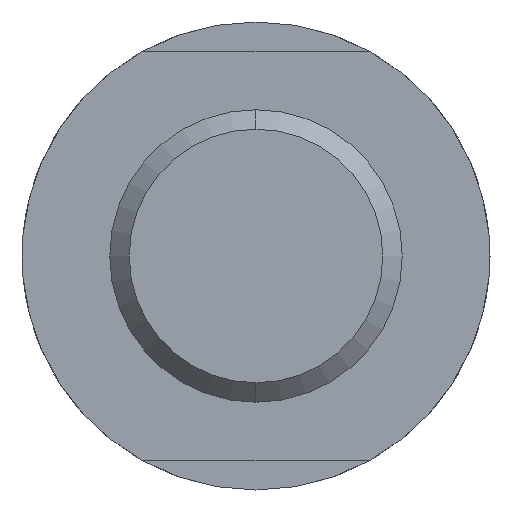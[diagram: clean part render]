
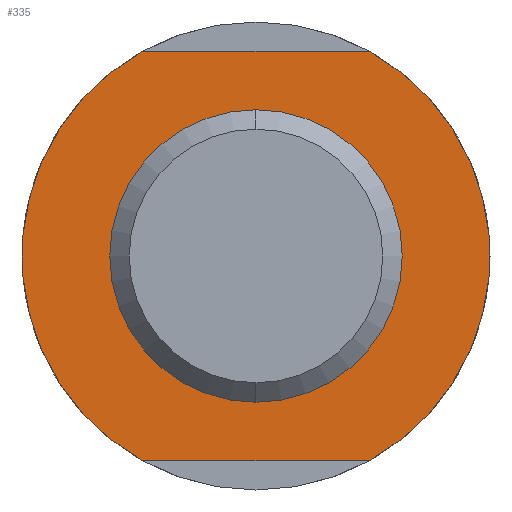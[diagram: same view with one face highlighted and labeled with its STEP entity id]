
A CAD part, left-side view. The second image highlights one B-rep face of the part: STEP entity #335.
In plain terms, the highlighted planar face has unit normal (-1, 0, 0).
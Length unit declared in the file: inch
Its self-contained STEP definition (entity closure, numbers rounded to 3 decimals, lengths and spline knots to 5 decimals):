
#2 = CIRCLE ( 'NONE', #1715, 1. ) ;
#5 = LINE ( 'NONE', #1542, #126 ) ;
#52 = VECTOR ( 'NONE', #1541, 39.37008 ) ;
#56 = LINE ( 'NONE', #1566, #52 ) ;
#123 = CIRCLE ( 'NONE', #1742, 0.625 ) ;
#126 = VECTOR ( 'NONE', #1635, 39.37008 ) ;
#129 = CIRCLE ( 'NONE', #1761, 1. ) ;
#142 = CIRCLE ( 'NONE', #243, 0.625 ) ;
#238 = AXIS2_PLACEMENT_3D ( 'NONE', #889, #788, #941 ) ;
#243 = AXIS2_PLACEMENT_3D ( 'NONE', #1596, #1601, #1694 ) ;
#335 = ADVANCED_FACE ( 'NONE', ( #1201, #1203 ), #796, .T. ) ;
#361 = ORIENTED_EDGE ( 'NONE', *, *, #1812, .T. ) ;
#362 = ORIENTED_EDGE ( 'NONE', *, *, #1773, .F. ) ;
#366 = ORIENTED_EDGE ( 'NONE', *, *, #1912, .T. ) ;
#367 = ORIENTED_EDGE ( 'NONE', *, *, #1871, .F. ) ;
#373 = ORIENTED_EDGE ( 'NONE', *, *, #1771, .F. ) ;
#397 = ORIENTED_EDGE ( 'NONE', *, *, #1772, .T. ) ;
#443 = EDGE_LOOP ( 'NONE', ( #367, #373 ) ) ;
#547 = VERTEX_POINT ( 'NONE', #1634 ) ;
#548 = VERTEX_POINT ( 'NONE', #1636 ) ;
#549 = VERTEX_POINT ( 'NONE', #1590 ) ;
#552 = VERTEX_POINT ( 'NONE', #1676 ) ;
#560 = VERTEX_POINT ( 'NONE', #1622 ) ;
#609 = EDGE_LOOP ( 'NONE', ( #366, #397, #361, #362 ) ) ;
#692 = VERTEX_POINT ( 'NONE', #1574 ) ;
#788 = DIRECTION ( 'NONE',  ( -1., 0., 0. ) ) ;
#796 = PLANE ( 'NONE',  #238 ) ;
#889 = CARTESIAN_POINT ( 'NONE',  ( -1., 0.625, 0. ) ) ;
#941 = DIRECTION ( 'NONE',  ( 0., 0., 1. ) ) ;
#1201 = FACE_BOUND ( 'NONE', #443, .T. ) ;
#1203 = FACE_OUTER_BOUND ( 'NONE', #609, .T. ) ;
#1253 = DIRECTION ( 'NONE',  ( 0., 0., 1. ) ) ;
#1265 = DIRECTION ( 'NONE',  ( -1., 0., 0. ) ) ;
#1308 = DIRECTION ( 'NONE',  ( 0., 0., 1. ) ) ;
#1310 = CARTESIAN_POINT ( 'NONE',  ( -1., 0., 0. ) ) ;
#1319 = DIRECTION ( 'NONE',  ( -1., 0., 0. ) ) ;
#1337 = CARTESIAN_POINT ( 'NONE',  ( -1., 0., 0. ) ) ;
#1424 = DIRECTION ( 'NONE',  ( -1., 0., 0. ) ) ;
#1446 = DIRECTION ( 'NONE',  ( 0., 0., 1. ) ) ;
#1483 = CARTESIAN_POINT ( 'NONE',  ( -1., 0., 0. ) ) ;
#1541 = DIRECTION ( 'NONE',  ( 0., 1., 0. ) ) ;
#1542 = CARTESIAN_POINT ( 'NONE',  ( -1., 0.625, 0.875 ) ) ;
#1566 = CARTESIAN_POINT ( 'NONE',  ( -1., -1., -0.875 ) ) ;
#1574 = CARTESIAN_POINT ( 'NONE',  ( -1., -0.48412, 0.875 ) ) ;
#1590 = CARTESIAN_POINT ( 'NONE',  ( -1., 0.48412, 0.875 ) ) ;
#1596 = CARTESIAN_POINT ( 'NONE',  ( -1., 0., 0. ) ) ;
#1601 = DIRECTION ( 'NONE',  ( -1., 0., 0. ) ) ;
#1622 = CARTESIAN_POINT ( 'NONE',  ( -1., -0.48412, -0.875 ) ) ;
#1634 = CARTESIAN_POINT ( 'NONE',  ( -1., 0., -0.625 ) ) ;
#1635 = DIRECTION ( 'NONE',  ( 0., 1., 0. ) ) ;
#1636 = CARTESIAN_POINT ( 'NONE',  ( -1., 0.48412, -0.875 ) ) ;
#1676 = CARTESIAN_POINT ( 'NONE',  ( -1., 0., 0.625 ) ) ;
#1694 = DIRECTION ( 'NONE',  ( 0., 0., 1. ) ) ;
#1715 = AXIS2_PLACEMENT_3D ( 'NONE', #1483, #1424, #1446 ) ;
#1742 = AXIS2_PLACEMENT_3D ( 'NONE', #1337, #1319, #1253 ) ;
#1761 = AXIS2_PLACEMENT_3D ( 'NONE', #1310, #1265, #1308 ) ;
#1771 = EDGE_CURVE ( 'NONE', #547, #552, #142, .T. ) ;
#1772 = EDGE_CURVE ( 'NONE', #692, #549, #5, .T. ) ;
#1773 = EDGE_CURVE ( 'NONE', #560, #548, #56, .T. ) ;
#1812 = EDGE_CURVE ( 'NONE', #549, #548, #2, .T. ) ;
#1871 = EDGE_CURVE ( 'NONE', #552, #547, #123, .T. ) ;
#1912 = EDGE_CURVE ( 'NONE', #560, #692, #129, .T. ) ;
